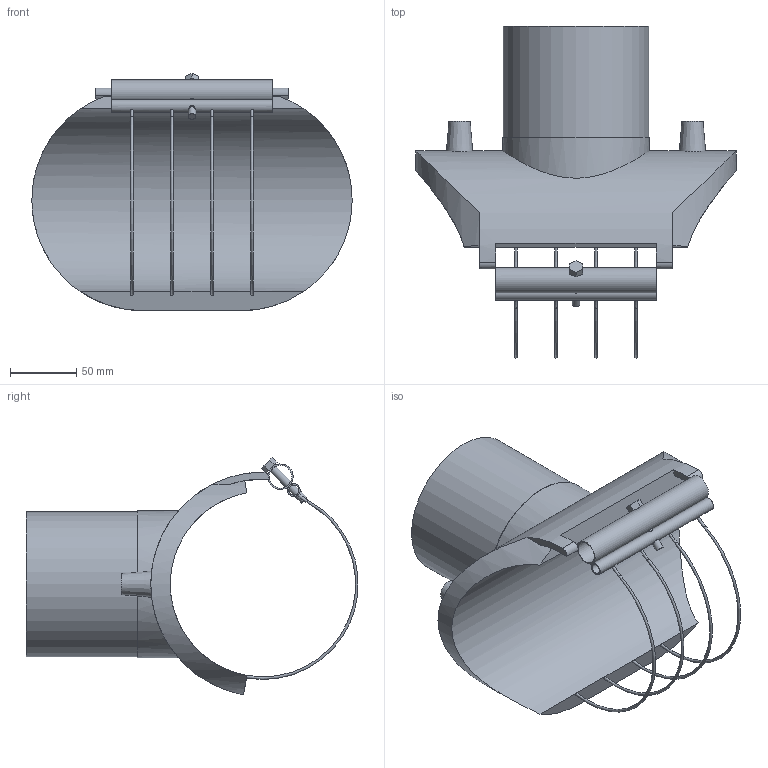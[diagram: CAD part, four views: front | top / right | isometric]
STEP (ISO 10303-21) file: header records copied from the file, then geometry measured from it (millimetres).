
FILE_DESCRIPTION(/* description */ ('Plasson Branch Saddle 140x110'),/* implementation_level */ '2;1');
FILE_NAME(/* name */ 'C:\Dropbox\KIMPROJECTS-Inventor 2019\99-16-3568-Processing\ElectroFusion Fittings\4958X4\4958X4140110T.stp',/* time_stamp */ '2025-05-07T12:15:08+03:00',/* author */ ('KIM'),/* organization */ (''),/* preprocessor_version */ 'ST-DEVELOPER v18.1',/* originating_system */ 'Autodesk Inventor 2021',/* authorisation */ '');
FILE_SCHEMA (('AUTOMOTIVE_DESIGN { 1 0 10303 214 3 1 1 }'));
Length unit declared in the file: millimetre
Products named in the file (1): 4958X4140110T
Bounding box: 242 x 250.77 x 179.22 mm (x, y, z)
Volume: 1019849.1 mm3; surface area: 199108.3 mm2
Topology: 1 solids, 1 shells, 63 faces, 178 edges, 115 vertices
Faces by surface type: cylinder 28, plane 25, torus 8, cone 2
Full cylindrical faces by diameter (mm): 6 x3, 7.6 x1, 8 x1, 16 x1, 17.2 x1, 89 x1, 110 x1, 111 x1
Entity records: 2937 total; most frequent: CARTESIAN_POINT 1242, ORIENTED_EDGE 360, DIRECTION 331, EDGE_CURVE 180, AXIS2_PLACEMENT_3D 135, VERTEX_POINT 115, EDGE_LOOP 81, CIRCLE 67
